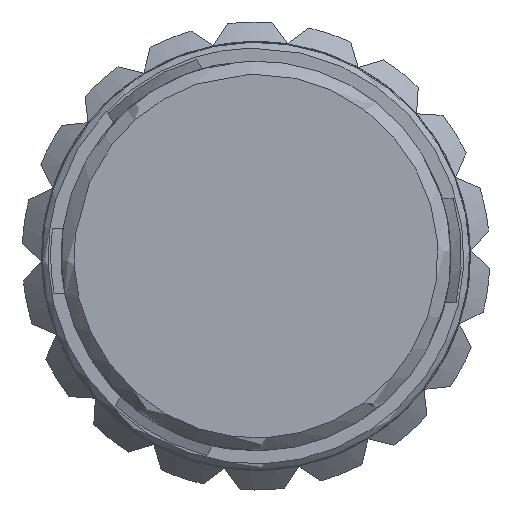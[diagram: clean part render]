
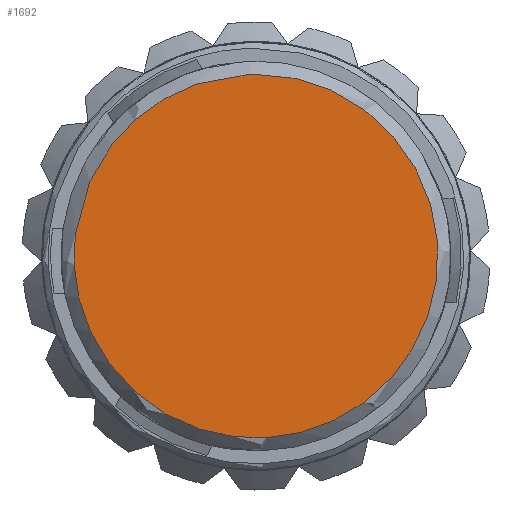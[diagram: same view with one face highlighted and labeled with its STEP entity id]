
A CAD part, left-side view. The second image highlights one B-rep face of the part: STEP entity #1692.
In plain terms, the highlighted planar face has unit normal (-1, 0, 0) as drawn and (0, 0, 1) by its records, which use the part's own axes.
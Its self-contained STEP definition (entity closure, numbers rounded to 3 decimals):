
#1692 = ADVANCED_FACE ( 'NONE', ( #5846 ), #4576, .F. ) ;
#1837 = CARTESIAN_POINT ( 'NONE',  ( 7., -14., 58. ) ) ;
#3665 = CARTESIAN_POINT ( 'NONE',  ( 7., 0., 58. ) ) ;
#4576 = PLANE ( 'NONE',  #11499 ) ;
#5140 = EDGE_LOOP ( 'NONE', ( #15843 ) ) ;
#5838 = CARTESIAN_POINT ( 'NONE',  ( -7., 14., 58. ) ) ;
#5846 = FACE_OUTER_BOUND ( 'NONE', #5140, .T. ) ;
#6163 = EDGE_CURVE ( 'NONE', #6277, #6277, #14266, .T. ) ;
#6277 = VERTEX_POINT ( 'NONE', #3665 ) ;
#6953 = DIRECTION ( 'NONE',  ( 0., 0., -1. ) ) ;
#8280 = CARTESIAN_POINT ( 'NONE',  ( 7., 0., 58. ) ) ;
#10921 = CARTESIAN_POINT ( 'NONE',  ( 7., 14., 58. ) ) ;
#11499 = AXIS2_PLACEMENT_3D ( 'NONE', #11938, #6953, #14483 ) ;
#11938 = CARTESIAN_POINT ( 'NONE',  ( 0., 0., 58. ) ) ;
#12313 = CARTESIAN_POINT ( 'NONE',  ( -7., 0., 58. ) ) ;
#14266 =( BOUNDED_CURVE ( )  B_SPLINE_CURVE ( 3, ( #8280, #1837, #14875, #12313, #5838, #10921, #14927 ),
 .UNSPECIFIED., .T., .F. ) 
 B_SPLINE_CURVE_WITH_KNOTS ( ( 4, 3, 4 ),
 ( 0., 0.5, 1. ),
 .UNSPECIFIED. ) 
 CURVE ( )  GEOMETRIC_REPRESENTATION_ITEM ( )  RATIONAL_B_SPLINE_CURVE ( ( 1., 0.333, 0.333, 1., 0.333, 0.333, 1. ) ) 
 REPRESENTATION_ITEM ( '' )  );
#14483 = DIRECTION ( 'NONE',  ( -1., 0., 0. ) ) ;
#14875 = CARTESIAN_POINT ( 'NONE',  ( -7., -14., 58. ) ) ;
#14927 = CARTESIAN_POINT ( 'NONE',  ( 7., 0., 58. ) ) ;
#15843 = ORIENTED_EDGE ( 'NONE', *, *, #6163, .F. ) ;
